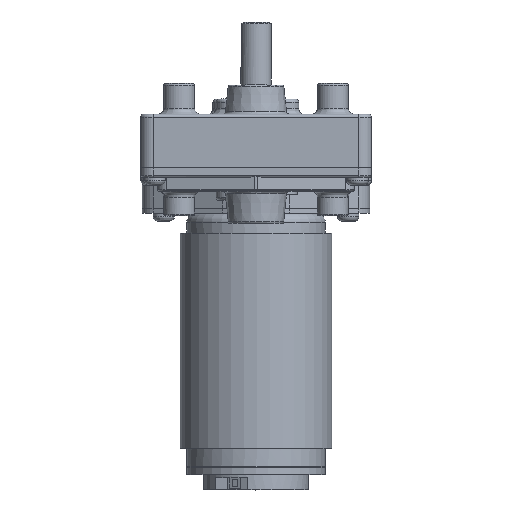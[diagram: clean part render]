
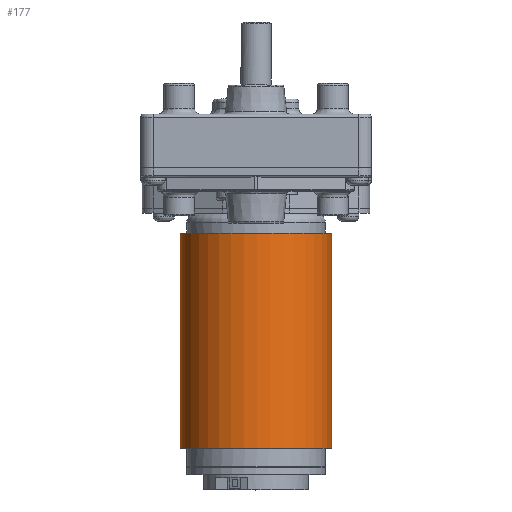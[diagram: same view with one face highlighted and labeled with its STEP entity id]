
A CAD part, top view. The second image highlights one B-rep face of the part: STEP entity #177.
In plain terms, the highlighted cylindrical face has radius 24.7 mm (diameter 49.4 mm), a partial arc.
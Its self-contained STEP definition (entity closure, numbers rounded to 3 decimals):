
#112=CARTESIAN_POINT('',(-24.421,-87.1,-36.203));
#113=VERTEX_POINT('',#112);
#120=CARTESIAN_POINT('',(-24.421,-17.1,-36.203));
#121=VERTEX_POINT('',#120);
#122=CARTESIAN_POINT('',(-24.421,-17.1,-36.203));
#123=DIRECTION('',(0.0,-1.0,0.0));
#124=VECTOR('',#123,70.0);
#125=LINE('',#122,#124);
#126=EDGE_CURVE('',#121,#113,#125,.T.);
#145=CARTESIAN_POINT('',(0.,-17.1,-32.501));
#146=DIRECTION('',(0.,-1.0,0.));
#147=DIRECTION('',(-0.989,0.,-0.15));
#148=AXIS2_PLACEMENT_3D('',#145,#146,#147);
#149=CYLINDRICAL_SURFACE('',#148,24.7);
#150=CARTESIAN_POINT('',(-23.,-87.1,-41.505));
#151=VERTEX_POINT('',#150);
#152=CARTESIAN_POINT('',(0.,-87.1,-32.501));
#153=DIRECTION('',(0.,1.0,0.));
#154=DIRECTION('',(-0.989,0.,-0.15));
#155=AXIS2_PLACEMENT_3D('',#152,#153,#154);
#156=CIRCLE('',#155,24.7);
#157=EDGE_CURVE('',#113,#151,#156,.T.);
#158=ORIENTED_EDGE('',*,*,#157,.T.);
#159=CARTESIAN_POINT('',(-23.,-17.1,-41.505));
#160=VERTEX_POINT('',#159);
#161=CARTESIAN_POINT('',(-23.,-17.1,-41.505));
#162=DIRECTION('',(0.0,-1.0,0.0));
#163=VECTOR('',#162,70.0);
#164=LINE('',#161,#163);
#165=EDGE_CURVE('',#160,#151,#164,.T.);
#166=ORIENTED_EDGE('',*,*,#165,.F.);
#167=CARTESIAN_POINT('',(0.,-17.1,-32.501));
#168=DIRECTION('',(0.,1.0,0.));
#169=DIRECTION('',(-0.989,0.,-0.15));
#170=AXIS2_PLACEMENT_3D('',#167,#168,#169);
#171=CIRCLE('',#170,24.7);
#172=EDGE_CURVE('',#121,#160,#171,.T.);
#173=ORIENTED_EDGE('',*,*,#172,.F.);
#174=ORIENTED_EDGE('',*,*,#126,.T.);
#175=EDGE_LOOP('',(#158,#166,#173,#174));
#176=FACE_OUTER_BOUND('',#175,.T.);
#177=ADVANCED_FACE('',(#176),#149,.T.);
